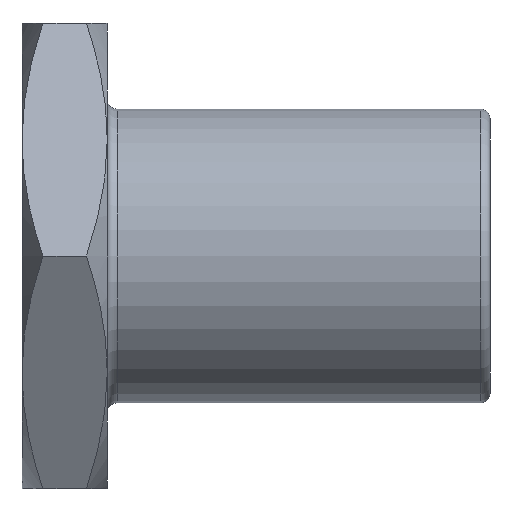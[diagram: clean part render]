
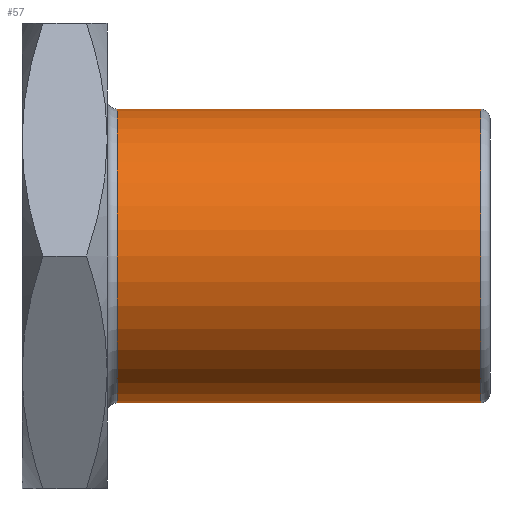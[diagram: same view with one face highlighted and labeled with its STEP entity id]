
A CAD part, front view. The second image highlights one B-rep face of the part: STEP entity #57.
In plain terms, the highlighted cylindrical face has radius 5.995 mm (diameter 11.99 mm), a full revolution.
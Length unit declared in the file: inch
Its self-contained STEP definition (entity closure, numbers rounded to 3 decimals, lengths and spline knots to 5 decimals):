
#57 = ADVANCED_FACE( '', ( #132, #133 ), #134, .T. );
#132 = FACE_OUTER_BOUND( '', #229, .T. );
#133 = FACE_OUTER_BOUND( '', #230, .T. );
#134 = CYLINDRICAL_SURFACE( '', #231, 0.23602 );
#229 = EDGE_LOOP( '', ( #341 ) );
#230 = EDGE_LOOP( '', ( #342 ) );
#231 = AXIS2_PLACEMENT_3D( '', #343, #344, #345 );
#341 = ORIENTED_EDGE( '', *, *, #540, .F. );
#342 = ORIENTED_EDGE( '', *, *, #541, .T. );
#343 = CARTESIAN_POINT( '', ( 0.75197, 0., 0. ) );
#344 = DIRECTION( '', ( -1., 0., 0. ) );
#345 = DIRECTION( '', ( 0., 0., -1. ) );
#540 = EDGE_CURVE( '', #634, #634, #635, .T. );
#541 = EDGE_CURVE( '', #636, #636, #637, .T. );
#634 = VERTEX_POINT( '', #791 );
#635 = CIRCLE( '', #792, 0.23602 );
#636 = VERTEX_POINT( '', #793 );
#637 = CIRCLE( '', #794, 0.23602 );
#791 = CARTESIAN_POINT( '', ( 0.73697, 0., -0.23602 ) );
#792 = AXIS2_PLACEMENT_3D( '', #979, #980, #981 );
#793 = CARTESIAN_POINT( '', ( 0.15301, 0., -0.23602 ) );
#794 = AXIS2_PLACEMENT_3D( '', #982, #983, #984 );
#979 = CARTESIAN_POINT( '', ( 0.73697, 0., 0. ) );
#980 = DIRECTION( '', ( 1., 0., 0. ) );
#981 = DIRECTION( '', ( 0., 0., -1. ) );
#982 = CARTESIAN_POINT( '', ( 0.15301, 0., 0. ) );
#983 = DIRECTION( '', ( 1., 0., 0. ) );
#984 = DIRECTION( '', ( 0., 0., -1. ) );
